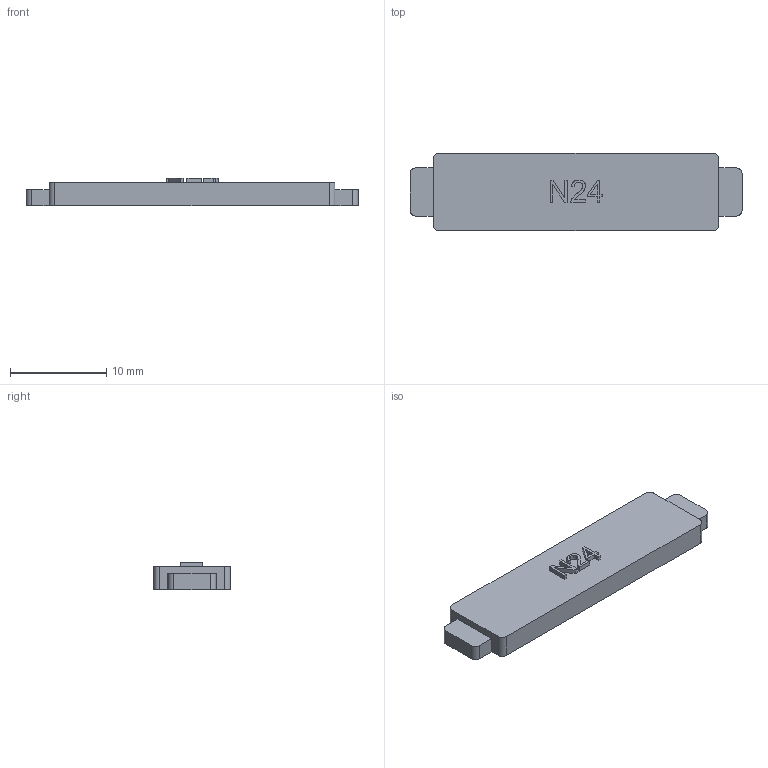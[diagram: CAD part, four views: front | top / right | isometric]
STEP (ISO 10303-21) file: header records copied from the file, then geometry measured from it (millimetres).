
FILE_DESCRIPTION(('Open CASCADE Model'),'2;1');
FILE_NAME('Open CASCADE Shape Model','1970-01-01T00:00:00',('Author'),( 'Open CASCADE'),'Open CASCADE STEP processor 7.8','Open CASCADE 7.8' ,'Unknown');
FILE_SCHEMA(('AUTOMOTIVE_DESIGN { 1 0 10303 214 1 1 1 1 }'));
Length unit declared in the file: millimetre
Products named in the file (2): Open CASCADE STEP translator 7.8 41; N24K neck keeper bar
Assembly tree (1 placements, depth 2):
  Open CASCADE STEP translator 7.8 41
    N24K neck keeper bar
Bounding box: 34.5 x 8 x 2.88 mm (x, y, z)
Volume: 611.5 mm3; surface area: 731.4 mm2
Topology: 1 solids, 1 shells, 72 faces, 198 edges, 132 vertices
Faces by surface type: plane 46, extrusion 18, cylinder 8
Entity records: 5149 total; most frequent: CARTESIAN_POINT 1408, DIRECTION 578, VECTOR 422, LINE 404, ORIENTED_EDGE 396, PCURVE 396, DEFINITIONAL_REPRESENTATION 396, EDGE_CURVE 198
